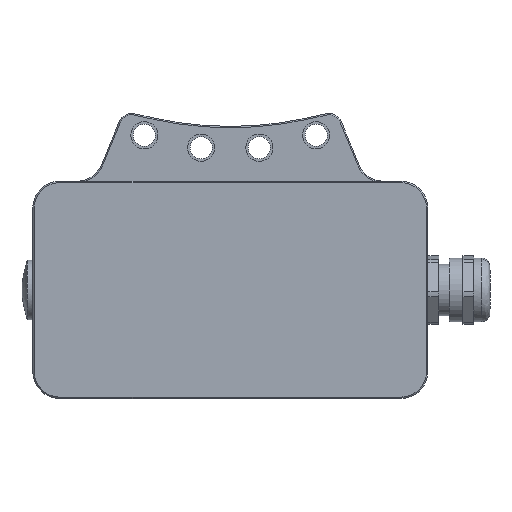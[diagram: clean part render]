
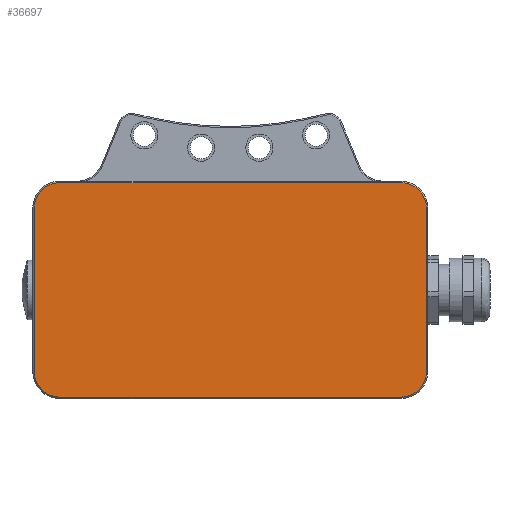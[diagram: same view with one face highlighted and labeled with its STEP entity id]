
A CAD part, front view. The second image highlights one B-rep face of the part: STEP entity #36697.
In plain terms, the highlighted planar face has unit normal (0, -1, 0).
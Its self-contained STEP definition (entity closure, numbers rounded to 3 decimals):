
#1614 = AXIS2_PLACEMENT_3D ( 'NONE', #16194, #11139, #32324 ) ;
#2414 = PLANE ( 'NONE',  #31847 ) ;
#2653 = CARTESIAN_POINT ( 'NONE',  ( 0., -5., 0. ) ) ;
#3092 = EDGE_CURVE ( 'NONE', #21684, #50362, #49990, .T. ) ;
#3325 = EDGE_CURVE ( 'NONE', #4853, #18384, #25938, .T. ) ;
#4853 = VERTEX_POINT ( 'NONE', #41990 ) ;
#5037 = VERTEX_POINT ( 'NONE', #26948 ) ;
#5516 = EDGE_CURVE ( 'NONE', #18384, #44242, #59642, .T. ) ;
#5920 = ORIENTED_EDGE ( 'NONE', *, *, #3325, .T. ) ;
#8565 = DIRECTION ( 'NONE',  ( 0., -1., 0. ) ) ;
#8636 = CARTESIAN_POINT ( 'NONE',  ( 48., -5., 30.15 ) ) ;
#9206 = LINE ( 'NONE', #41169, #21510 ) ;
#9442 = VERTEX_POINT ( 'NONE', #40330 ) ;
#9766 = CARTESIAN_POINT ( 'NONE',  ( 0., -5., 39.65 ) ) ;
#10538 = CIRCLE ( 'NONE', #52222, 9.5 ) ;
#10938 = LINE ( 'NONE', #9766, #51417 ) ;
#11139 = DIRECTION ( 'NONE',  ( 0., -1., 0. ) ) ;
#11502 = EDGE_CURVE ( 'NONE', #44242, #21684, #10938, .T. ) ;
#12641 = CARTESIAN_POINT ( 'NONE',  ( -78., -5., 39.65 ) ) ;
#13372 = DIRECTION ( 'NONE',  ( -1., 0., 0. ) ) ;
#16071 = CARTESIAN_POINT ( 'NONE',  ( -87.5, -5., 30.15 ) ) ;
#16194 = CARTESIAN_POINT ( 'NONE',  ( 48., -5., -30.15 ) ) ;
#16882 = VECTOR ( 'NONE', #20011, 1000. ) ;
#18274 = ORIENTED_EDGE ( 'NONE', *, *, #3092, .T. ) ;
#18305 = DIRECTION ( 'NONE',  ( 0., -1., 0. ) ) ;
#18384 = VERTEX_POINT ( 'NONE', #64809 ) ;
#19168 = DIRECTION ( 'NONE',  ( 0., -1., 0. ) ) ;
#19637 = VECTOR ( 'NONE', #64527, 1000. ) ;
#20011 = DIRECTION ( 'NONE',  ( 0., 0., 1. ) ) ;
#21510 = VECTOR ( 'NONE', #40477, 1000. ) ;
#21684 = VERTEX_POINT ( 'NONE', #12641 ) ;
#22028 = EDGE_CURVE ( 'NONE', #5037, #25404, #59298, .T. ) ;
#23072 = CARTESIAN_POINT ( 'NONE',  ( -78., -5., -30.15 ) ) ;
#23515 = CIRCLE ( 'NONE', #1614, 9.5 ) ;
#24462 = DIRECTION ( 'NONE',  ( 0., 0., 1. ) ) ;
#25404 = VERTEX_POINT ( 'NONE', #53493 ) ;
#25847 = DIRECTION ( 'NONE',  ( -1., 0., 0. ) ) ;
#25938 = LINE ( 'NONE', #30870, #16882 ) ;
#26948 = CARTESIAN_POINT ( 'NONE',  ( -78., -5., -39.65 ) ) ;
#26991 = FACE_OUTER_BOUND ( 'NONE', #31917, .T. ) ;
#27718 = CARTESIAN_POINT ( 'NONE',  ( 0., -5., -39.65 ) ) ;
#30870 = CARTESIAN_POINT ( 'NONE',  ( 57.5, -5., 0. ) ) ;
#31847 = AXIS2_PLACEMENT_3D ( 'NONE', #2653, #18305, #59907 ) ;
#31917 = EDGE_LOOP ( 'NONE', ( #54405, #18274, #53125, #61111, #49576, #60683, #5920, #39764 ) ) ;
#32324 = DIRECTION ( 'NONE',  ( 0., 0., 1. ) ) ;
#33412 = CARTESIAN_POINT ( 'NONE',  ( 48., -5., 39.65 ) ) ;
#33735 = DIRECTION ( 'NONE',  ( 0., 0., 1. ) ) ;
#36697 = ADVANCED_FACE ( 'NONE', ( #26991 ), #2414, .T. ) ;
#36780 = AXIS2_PLACEMENT_3D ( 'NONE', #8636, #19168, #24462 ) ;
#39261 = DIRECTION ( 'NONE',  ( 0., -1., 0. ) ) ;
#39764 = ORIENTED_EDGE ( 'NONE', *, *, #5516, .T. ) ;
#40330 = CARTESIAN_POINT ( 'NONE',  ( -87.5, -5., -30.15 ) ) ;
#40477 = DIRECTION ( 'NONE',  ( 0., 0., -1. ) ) ;
#41169 = CARTESIAN_POINT ( 'NONE',  ( -87.5, -5., 0. ) ) ;
#41990 = CARTESIAN_POINT ( 'NONE',  ( 57.5, -5., -30.15 ) ) ;
#43738 = EDGE_CURVE ( 'NONE', #25404, #4853, #23515, .T. ) ;
#44242 = VERTEX_POINT ( 'NONE', #33412 ) ;
#48593 = AXIS2_PLACEMENT_3D ( 'NONE', #49880, #8565, #13372 ) ;
#49576 = ORIENTED_EDGE ( 'NONE', *, *, #22028, .T. ) ;
#49880 = CARTESIAN_POINT ( 'NONE',  ( -78., -5., 30.15 ) ) ;
#49990 = CIRCLE ( 'NONE', #48593, 9.5 ) ;
#50362 = VERTEX_POINT ( 'NONE', #16071 ) ;
#51417 = VECTOR ( 'NONE', #25847, 1000. ) ;
#52222 = AXIS2_PLACEMENT_3D ( 'NONE', #23072, #39261, #33735 ) ;
#53125 = ORIENTED_EDGE ( 'NONE', *, *, #55784, .T. ) ;
#53493 = CARTESIAN_POINT ( 'NONE',  ( 48., -5., -39.65 ) ) ;
#54405 = ORIENTED_EDGE ( 'NONE', *, *, #11502, .T. ) ;
#55784 = EDGE_CURVE ( 'NONE', #50362, #9442, #9206, .T. ) ;
#59298 = LINE ( 'NONE', #27718, #19637 ) ;
#59642 = CIRCLE ( 'NONE', #36780, 9.5 ) ;
#59907 = DIRECTION ( 'NONE',  ( 0., 0., -1. ) ) ;
#60683 = ORIENTED_EDGE ( 'NONE', *, *, #43738, .T. ) ;
#61111 = ORIENTED_EDGE ( 'NONE', *, *, #67300, .T. ) ;
#64527 = DIRECTION ( 'NONE',  ( 1., 0., 0. ) ) ;
#64809 = CARTESIAN_POINT ( 'NONE',  ( 57.5, -5., 30.15 ) ) ;
#67300 = EDGE_CURVE ( 'NONE', #9442, #5037, #10538, .T. ) ;
